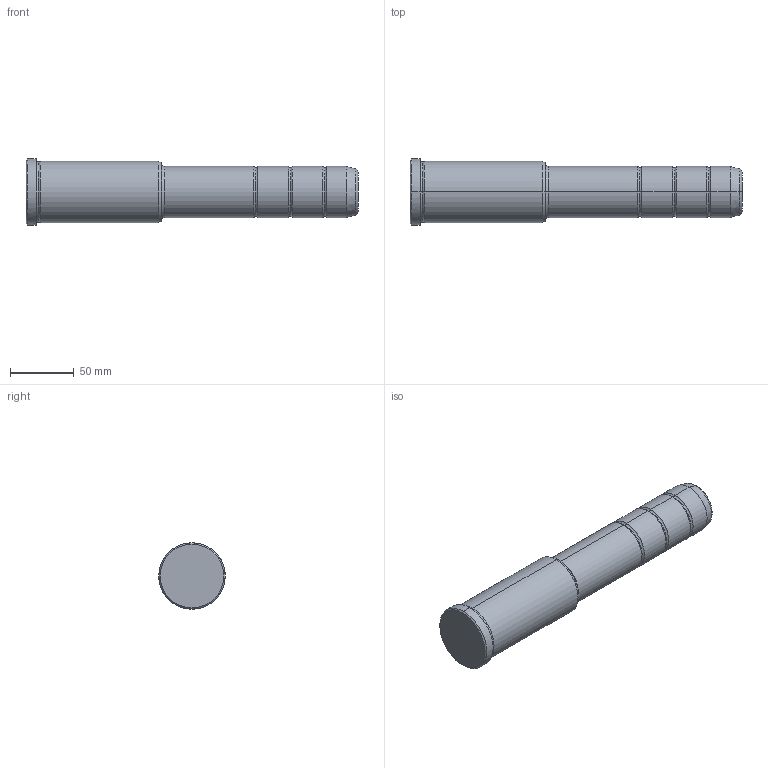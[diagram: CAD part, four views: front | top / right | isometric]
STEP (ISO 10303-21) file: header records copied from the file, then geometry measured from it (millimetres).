
FILE_DESCRIPTION(('CATIA V5 STEP Exchange'),'2;1');
FILE_NAME('C:\Users\Utente\Desktop\IO LAVORO\3D X SITO CF\X SITO\PLASTICA\351\351-40X106X260.stp','2021-10-07T13:42:31+00:00',('none'),('none'),'CATIA Version 5 Release 20 GA (IN-10)','CATIA V5 STEP AP203','none');
FILE_SCHEMA(('CONFIG_CONTROL_DESIGN'));
Length unit declared in the file: millimetre
Products named in the file (1): 351-40X106X260
Bounding box: 260 x 52 x 52 mm (x, y, z)
Volume: 385397.8 mm3; surface area: 39220.2 mm2
Topology: 1 solids, 1 shells, 42 faces, 118 edges, 80 vertices
Faces by surface type: torus 20, cylinder 12, cone 6, plane 4
Entity records: 1472 total; most frequent: CARTESIAN_POINT 353, ORIENTED_EDGE 236, DIRECTION 194, AXIS2_PLACEMENT_3D 135, EDGE_CURVE 118, CIRCLE 92, VERTEX_POINT 80, EDGE_LOOP 44
